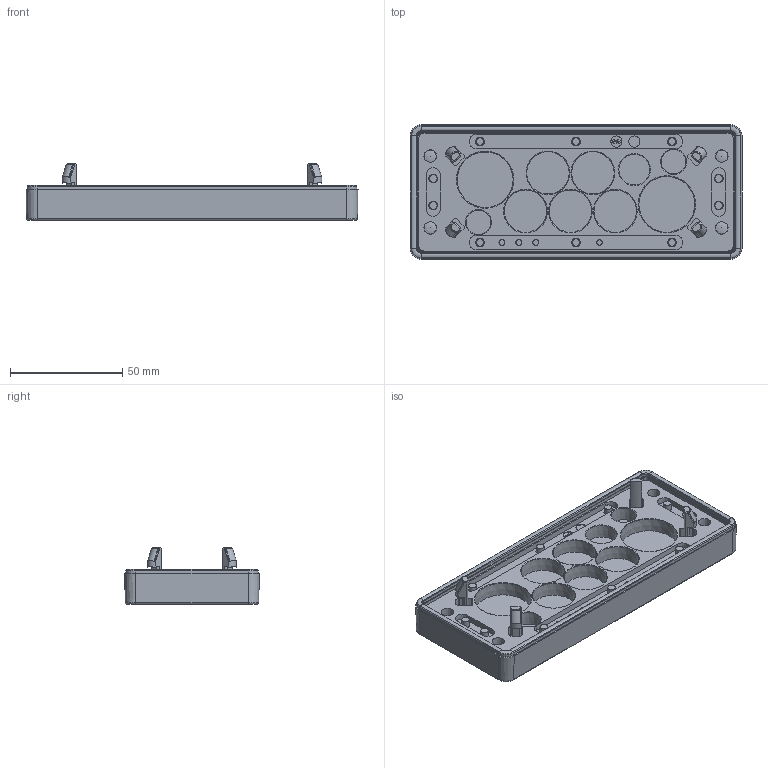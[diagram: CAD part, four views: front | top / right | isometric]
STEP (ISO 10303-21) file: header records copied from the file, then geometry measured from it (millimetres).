
FILE_DESCRIPTION(/* description */ (''),/* implementation_level */ '2;1');
FILE_NAME(/* name */ 'H:\SapWorkDir\Inventor\MP1\ConvertTempPath\87_16_121481_00_A_220620_KDP-X 24-10 ZSB - Blech 1,5-2,0.stp',/* time_stamp */ '2022-06-20T15:17:38+02:00',/* author */ ('BAUER'),/* organization */ (''),/* preprocessor_version */ 'ST-DEVELOPER v16.13',/* originating_system */ 'Autodesk Inventor 2018',/* authorisation */ '');
FILE_SCHEMA (('AUTOMOTIVE_DESIGN { 1 0 10303 214 3 1 1 }'));
Products named in the file (5): 121481; 121379; 105855_MPS_3F1; 105568_MPS_3F1; 104104_MPS_3F1
Assembly tree (4 placements, depth 2):
  121481
    121379
    105855_MPS_3F1
    105568_MPS_3F1
    104104_MPS_3F1
Bounding box: 148 x 60 x 25 mm (x, y, z)
Volume: 70523.6 mm3; surface area: 68438.5 mm2
Topology: 4 solids, 4 shells, 2739 faces, 7161 edges, 4489 vertices
Faces by surface type: plane 1347, bspline 574, cylinder 394, cone 222, torus 157, sphere 45
Full cylindrical faces by diameter (mm): 2.5 x6, 2.6 x2, 3 x1, 3.1 x1, 3.6 x10, 5 x2, 5.5 x8, 6.5 x4, 7.5 x4
Entity records: 92153 total; most frequent: CARTESIAN_POINT 27465, ORIENTED_EDGE 13860, DIRECTION 12277, EDGE_CURVE 6930, VERTEX_POINT 4475, LINE 4337, VECTOR 4337, AXIS2_PLACEMENT_3D 3970
